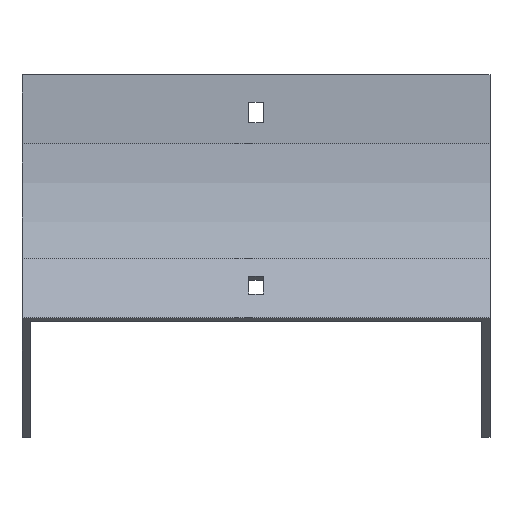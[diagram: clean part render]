
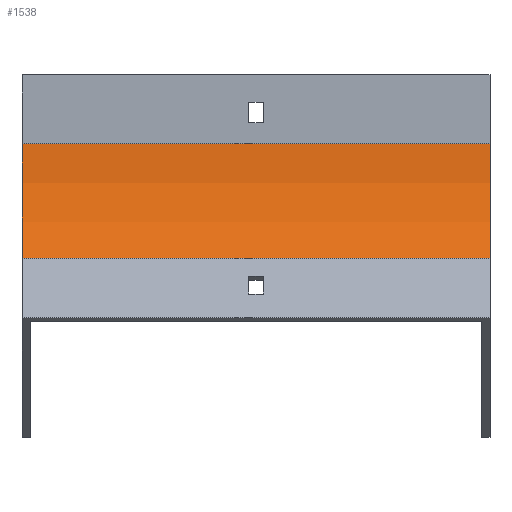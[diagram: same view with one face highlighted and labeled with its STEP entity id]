
A CAD part, front view. The second image highlights one B-rep face of the part: STEP entity #1538.
In plain terms, the highlighted cylindrical face has radius 100 mm (diameter 200 mm), a partial arc.
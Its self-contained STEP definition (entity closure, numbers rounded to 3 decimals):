
#11 = EDGE_CURVE ( 'NONE', #206, #1324, #1435, .T. ) ;
#17 = ORIENTED_EDGE ( 'NONE', *, *, #11, .T. ) ;
#64 = VECTOR ( 'NONE', #818, 1000. ) ;
#88 = AXIS2_PLACEMENT_3D ( 'NONE', #1729, #812, #1409 ) ;
#127 = EDGE_CURVE ( 'NONE', #960, #206, #1856, .T. ) ;
#147 = AXIS2_PLACEMENT_3D ( 'NONE', #1165, #584, #1771 ) ;
#189 = CARTESIAN_POINT ( 'NONE',  ( 102., -13.397, -80. ) ) ;
#206 = VERTEX_POINT ( 'NONE', #828 ) ;
#218 = LINE ( 'NONE', #189, #1620 ) ;
#257 = ORIENTED_EDGE ( 'NONE', *, *, #1348, .F. ) ;
#271 = FACE_OUTER_BOUND ( 'NONE', #1410, .T. ) ;
#275 = CARTESIAN_POINT ( 'NONE',  ( 102., -13.397, -80. ) ) ;
#291 = CARTESIAN_POINT ( 'NONE',  ( -102., -13.397, -80. ) ) ;
#339 = ORIENTED_EDGE ( 'NONE', *, *, #127, .T. ) ;
#506 = CARTESIAN_POINT ( 'NONE',  ( 102., 0., -30. ) ) ;
#584 = DIRECTION ( 'NONE',  ( -1., 0., 0. ) ) ;
#663 = CARTESIAN_POINT ( 'NONE',  ( 102., 0., -30. ) ) ;
#812 = DIRECTION ( 'NONE',  ( -1., 0., 0. ) ) ;
#818 = DIRECTION ( 'NONE',  ( -1., 0., 0. ) ) ;
#828 = CARTESIAN_POINT ( 'NONE',  ( -102., 0., -30. ) ) ;
#924 = CIRCLE ( 'NONE', #147, 100. ) ;
#960 = VERTEX_POINT ( 'NONE', #663 ) ;
#967 = AXIS2_PLACEMENT_3D ( 'NONE', #1492, #1664, #1359 ) ;
#971 = ORIENTED_EDGE ( 'NONE', *, *, #1496, .F. ) ;
#1033 = CYLINDRICAL_SURFACE ( 'NONE', #88, 100. ) ;
#1165 = CARTESIAN_POINT ( 'NONE',  ( 102., -100., -30. ) ) ;
#1279 = VERTEX_POINT ( 'NONE', #275 ) ;
#1324 = VERTEX_POINT ( 'NONE', #291 ) ;
#1348 = EDGE_CURVE ( 'NONE', #1279, #1324, #218, .T. ) ;
#1352 = DIRECTION ( 'NONE',  ( -1., 0., 0. ) ) ;
#1359 = DIRECTION ( 'NONE',  ( 0., 0., 1. ) ) ;
#1409 = DIRECTION ( 'NONE',  ( 0., 0., 1. ) ) ;
#1410 = EDGE_LOOP ( 'NONE', ( #17, #257, #971, #339 ) ) ;
#1435 = CIRCLE ( 'NONE', #967, 100. ) ;
#1492 = CARTESIAN_POINT ( 'NONE',  ( -102., -100., -30. ) ) ;
#1496 = EDGE_CURVE ( 'NONE', #960, #1279, #924, .T. ) ;
#1538 = ADVANCED_FACE ( 'NONE', ( #271 ), #1033, .F. ) ;
#1620 = VECTOR ( 'NONE', #1352, 1000. ) ;
#1664 = DIRECTION ( 'NONE',  ( -1., 0., 0. ) ) ;
#1729 = CARTESIAN_POINT ( 'NONE',  ( 102., -100., -30. ) ) ;
#1771 = DIRECTION ( 'NONE',  ( 0., 0., 1. ) ) ;
#1856 = LINE ( 'NONE', #506, #64 ) ;
